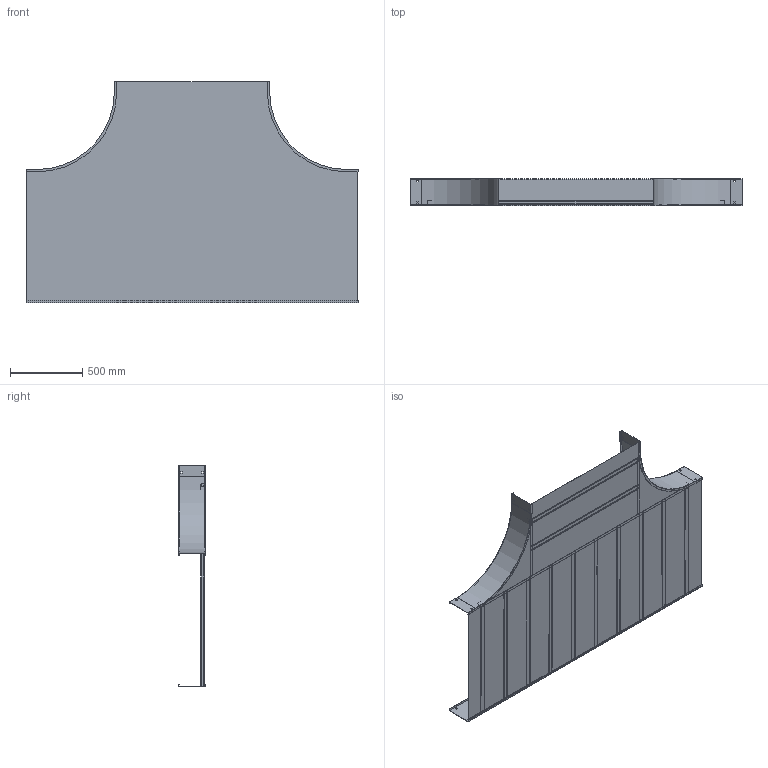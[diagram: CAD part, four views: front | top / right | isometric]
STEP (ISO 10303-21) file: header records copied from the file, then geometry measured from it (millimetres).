
FILE_DESCRIPTION((''),'2;1');
FILE_NAME('AUF73642SET24_ASM','2010-02-02T',('erouzier'),(''),'PRO/ENGINEER BY PARAMETRIC TECHNOLOGY CORPORATION, 2008510','PRO/ENGINEER BY PARAMETRIC TECHNOLOGY CORPORATION, 2008510','');
FILE_SCHEMA(('CONFIG_CONTROL_DESIGN'));
Length unit declared in the file: inch
Products named in the file (18): CDS001322-7-90-21-I; CDS013844-7-90; CDS000495_GEN_AF9; CDS002159L36_AF8; CDS002159L36_AF9; CDS002159L36_AF10; CDS002159L36_AF11; CDS002159L36; CDS002159L36_AF12; CDS002159L36_AF13; CDS002159L36_AF14; CDS002159L36_AF15; CDS000495_GEN_AF10; CDS000495_GEN_AF11; CDS002159L42_AF2; CDS002159L42_AF3; CDS004382-36-24-42; AUF73642SET24_ASM
Assembly tree (19 placements, depth 2):
  AUF73642SET24_ASM
    CDS001322-7-90-21-I  x2
    CDS013844-7-90
    CDS000495_GEN_AF9
    CDS002159L36_AF8
    CDS002159L36_AF9
    CDS002159L36_AF10
    CDS002159L36_AF11
    CDS002159L36  x2
    CDS002159L36_AF12
    CDS002159L36_AF13
    CDS002159L36_AF14
    CDS002159L36_AF15
    CDS000495_GEN_AF10
    CDS000495_GEN_AF11
    CDS002159L42_AF2
    CDS002159L42_AF3
    CDS004382-36-24-42
Bounding box: 2291.59 x 183.9 x 1529.59 mm (x, y, z)
Volume: 7468374.3 mm3; surface area: 10599254.9 mm2
Topology: 19 solids, 19 shells, 496 faces, 1374 edges, 916 vertices
Faces by surface type: plane 354, cylinder 142
Entity records: 14211 total; most frequent: CARTESIAN_POINT 2459, ORIENTED_EDGE 2388, DIRECTION 2386, EDGE_CURVE 1194, VECTOR 940, LINE 940, VERTEX_POINT 796, AXIS2_PLACEMENT_3D 723
